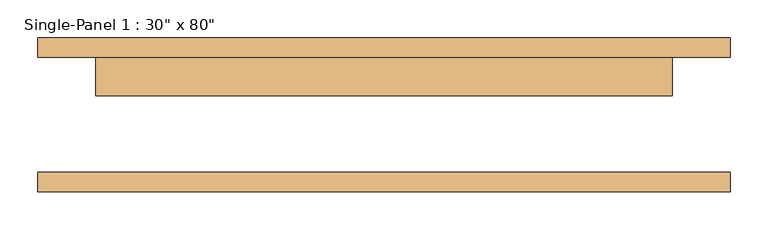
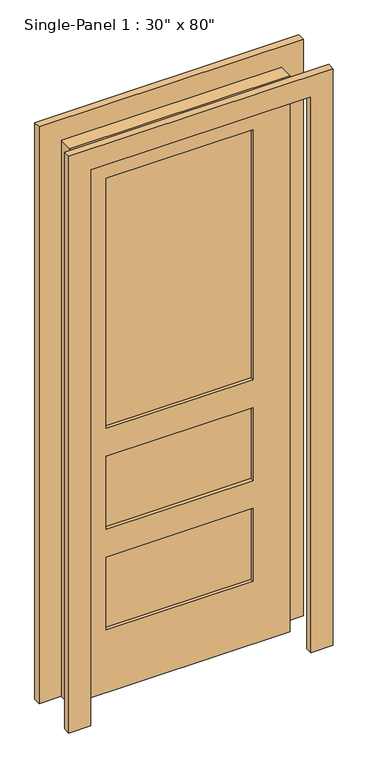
"""IFC4 building model written with IfcOpenShell, lengths in millimetres: door geometry."""

from ifc_helpers import new_model, si_unit, frame, origin, place, context, project, spatial, polyline, outline, extrude, source, transform, mapped, element, save


def door_de661ade(model_context):
    return source(origin(), model_context, "Body", "SweptSolid", [
        extrude(outline(polyline([(0.0, -457.2), (0.0, -381.0), (2032.0, -381.0), (2032.0, 381.0), (0.0, 381.0), (0.0, 457.2), (2108.2, 457.2), (2108.2, -457.2), (0.0, -457.2)])), frame((0.0, -101.6, 0.0), z_axis=(0.0, 1.0, 0.0), x_axis=(0.0, 0.0, 1.0)), (0.0, 0.0, 1.0), 25.4),
        extrude(outline(polyline([(0.0, 457.2), (2108.2, 457.2), (2108.2, -457.2), (0.0, -457.2), (0.0, -381.0), (2032.0, -381.0), (2032.0, 381.0), (0.0, 381.0), (0.0, 457.2)])), frame((0.0, 76.2, 0.0), z_axis=(0.0, 1.0, 0.0), x_axis=(0.0, 0.0, 1.0)), (0.0, 0.0, 1.0), 25.4),
        extrude(outline(polyline([(254.0, 38.1), (-254.0, 38.1), (-254.0, 63.5), (254.0, 63.5), (254.0, 38.1)])), frame((0.0, 0.0, 965.2), z_axis=(0.0, 0.0, 1.0), x_axis=(1.0, 0.0, 0.0)), (0.0, 0.0, 1.0), 914.4),
        extrude(outline(polyline([(254.0, 38.1), (-254.0, 38.1), (-254.0, 63.5), (254.0, 63.5), (254.0, 38.1)])), frame((0.0, 0.0, 596.9), z_axis=(0.0, 0.0, 1.0), x_axis=(1.0, 0.0, 0.0)), (0.0, 0.0, 1.0), 266.7),
        extrude(outline(polyline([(254.0, 38.1), (-254.0, 38.1), (-254.0, 63.5), (254.0, 63.5), (254.0, 38.1)])), frame((0.0, 0.0, 228.6), z_axis=(0.0, 0.0, 1.0), x_axis=(1.0, 0.0, 0.0)), (0.0, 0.0, 1.0), 266.7),
        extrude(outline(polyline([(2032.0, 381.0), (2032.0, -381.0), (0.0, -381.0), (0.0, 381.0), (2032.0, 381.0)]), holes=[polyline([(965.2, 254.0), (965.2, -254.0), (1879.6, -254.0), (1879.6, 254.0), (965.2, 254.0)]), polyline([(596.9, 254.0), (596.9, -254.0), (863.6, -254.0), (863.6, 254.0), (596.9, 254.0)]), polyline([(495.3, 254.0), (228.6, 254.0), (228.6, -254.0), (495.3, -254.0), (495.3, 254.0)])]), frame((0.0, 25.4, 0.0), z_axis=(0.0, 1.0, 0.0), x_axis=(0.0, 0.0, 1.0)), (0.0, 0.0, 1.0), 50.8),
    ])


if __name__ == "__main__":
    model = new_model("IFC4")
    model_context = context("Model", 3, world=origin())
    ifc_project = project(units=[si_unit("LENGTHUNIT", "METRE", prefix="MILLI")], contexts=[model_context])
    site = spatial("IfcSite", under=ifc_project)
    building = spatial("IfcBuilding", under=site)
    placement = place(None, origin())
    door_shape = door_de661ade(model_context)
    element("IfcDoor", 1, ObjectType="Single-Panel 1 : 30\" x 80\"", at=placement, inside=building, context=model_context, shape_type="MappedRepresentation", body=[
        mapped(door_shape, transform((0.0, 0.0, 0.0), x_axis=(1.0, 0.0, 0.0), y_axis=(0.0, 1.0, 0.0), z_axis=(0.0, 0.0, 1.0))),
    ])
    save(model, "model.ifc")
